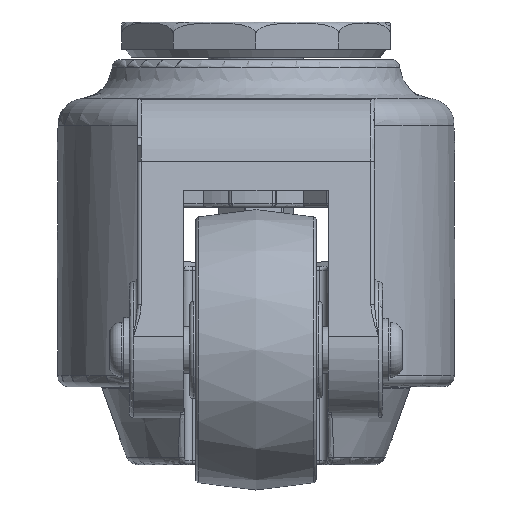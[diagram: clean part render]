
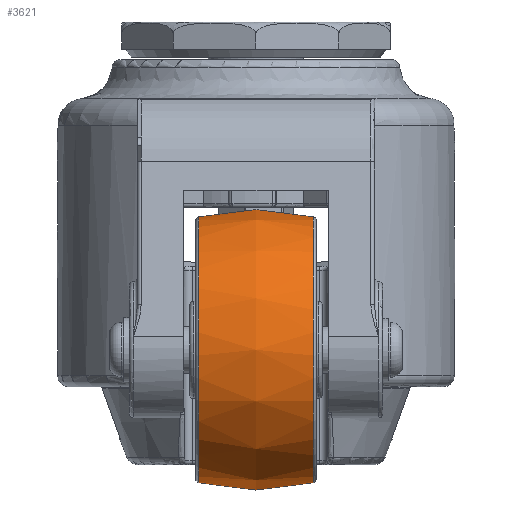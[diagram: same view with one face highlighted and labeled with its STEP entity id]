
A CAD part, left-side view. The second image highlights one B-rep face of the part: STEP entity #3621.
In plain terms, the highlighted free-form (B-spline) face has degree [2, 2] with [3, 9] control points.
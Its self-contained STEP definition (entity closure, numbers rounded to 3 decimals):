
#3557=CARTESIAN_POINT('',(-18.136,14.746,5.013));
#3558=VERTEX_POINT('',#3557);
#3559=CARTESIAN_POINT('',(-52.0,14.746,9.5));
#3560=DIRECTION('',(0.0,-1.0,0.0));
#3561=DIRECTION('',(0.991,0.0,-0.131));
#3562=AXIS2_PLACEMENT_3D('',#3559,#3560,#3561);
#3563=CIRCLE('',#3562,34.16);
#3564=EDGE_CURVE('',#3558,#3558,#3563,.T.);
#3572=CARTESIAN_POINT('',(-52.,-14.746,-24.66));
#3573=CARTESIAN_POINT('',(-52.,0.,-28.398));
#3574=CARTESIAN_POINT('',(-52.,14.746,-24.66));
#3575=CARTESIAN_POINT('',(-17.84,-14.746,-24.66));
#3576=CARTESIAN_POINT('',(-14.102,0.,-28.398));
#3577=CARTESIAN_POINT('',(-17.84,14.746,-24.66));
#3578=CARTESIAN_POINT('',(-17.84,-14.746,9.5));
#3579=CARTESIAN_POINT('',(-14.102,0.,9.5));
#3580=CARTESIAN_POINT('',(-17.84,14.746,9.5));
#3581=CARTESIAN_POINT('',(-17.84,-14.746,43.66));
#3582=CARTESIAN_POINT('',(-14.102,0.,47.398));
#3583=CARTESIAN_POINT('',(-17.84,14.746,43.66));
#3584=CARTESIAN_POINT('',(-52.,-14.746,43.66));
#3585=CARTESIAN_POINT('',(-52.,0.,47.398));
#3586=CARTESIAN_POINT('',(-52.,14.746,43.66));
#3587=CARTESIAN_POINT('',(-86.16,-14.746,43.66));
#3588=CARTESIAN_POINT('',(-89.898,0.,47.398));
#3589=CARTESIAN_POINT('',(-86.16,14.746,43.66));
#3590=CARTESIAN_POINT('',(-86.16,-14.746,9.5));
#3591=CARTESIAN_POINT('',(-89.898,0.,9.5));
#3592=CARTESIAN_POINT('',(-86.16,14.746,9.5));
#3593=CARTESIAN_POINT('',(-86.16,-14.746,-24.66));
#3594=CARTESIAN_POINT('',(-89.898,0.,-28.398));
#3595=CARTESIAN_POINT('',(-86.16,14.746,-24.66));
#3596=CARTESIAN_POINT('',(-52.,-14.746,-24.66));
#3597=CARTESIAN_POINT('',(-52.,0.,-28.398));
#3598=CARTESIAN_POINT('',(-52.,14.746,-24.66));
#3606=(BOUNDED_SURFACE()B_SPLINE_SURFACE(2,2,((#3572,#3575,#3578,#3581,#3584,#3587,#3590,#3593,#3596),(#3573,#3576,#3579,#3582,#3585,#3588,#3591,#3594,#3597),(#3574,#3577,#3580,#3583,#3586,#3589,#3592,#3595,#3598)),.UNSPECIFIED.,.F.,.T.,.U.)B_SPLINE_SURFACE_WITH_KNOTS((3,3),(3,2,2,2,3),(-0.248,0.248),(0.0,1.571,3.142,4.712,6.283),.UNSPECIFIED.)GEOMETRIC_REPRESENTATION_ITEM()RATIONAL_B_SPLINE_SURFACE(((1.0,0.707,1.0,0.707,1.0,0.707,1.0,0.707,1.0),(0.969,0.685,0.969,0.685,0.969,0.685,0.969,0.685,0.969),(1.0,0.707,1.0,0.707,1.0,0.707,1.0,0.707,1.0)))REPRESENTATION_ITEM('')SURFACE());
#3607=ORIENTED_EDGE('',*,*,#3564,.T.);
#3608=EDGE_LOOP('',(#3607));
#3609=FACE_OUTER_BOUND('',#3608,.T.);
#3610=CARTESIAN_POINT('',(-18.136,-14.746,5.013));
#3611=VERTEX_POINT('',#3610);
#3612=CARTESIAN_POINT('',(-52.0,-14.746,9.5));
#3613=DIRECTION('',(0.0,-1.0,0.0));
#3614=DIRECTION('',(0.991,0.0,-0.131));
#3615=AXIS2_PLACEMENT_3D('',#3612,#3613,#3614);
#3616=CIRCLE('',#3615,34.16);
#3617=EDGE_CURVE('',#3611,#3611,#3616,.T.);
#3618=ORIENTED_EDGE('',*,*,#3617,.F.);
#3619=EDGE_LOOP('',(#3618));
#3620=FACE_BOUND('',#3619,.T.);
#3621=ADVANCED_FACE('',(#3609,#3620),#3606,.T.);
